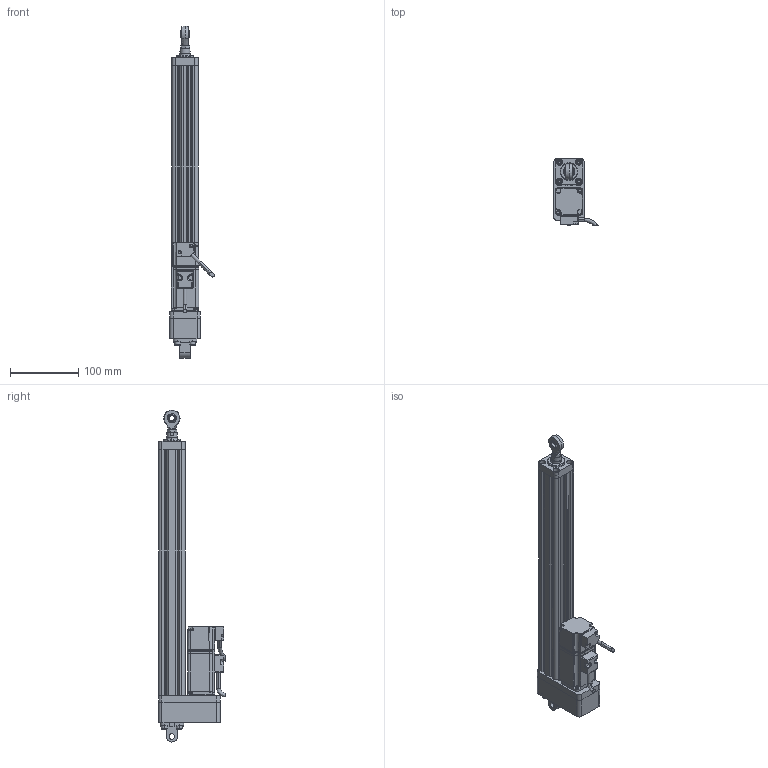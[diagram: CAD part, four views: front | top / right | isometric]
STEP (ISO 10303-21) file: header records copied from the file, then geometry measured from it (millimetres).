
FILE_DESCRIPTION (( 'STEP AP214' ), '1' );
FILE_NAME ('039-S300-D02-B-M5-C4-2.STEP', '2021-03-02T04:58:13', ( '' ), ( '' ), 'SwSTEP 2.0', 'SolidWorks 2018', '' );
FILE_SCHEMA (( 'AUTOMOTIVE_DESIGN' ));
Length unit declared in the file: millimetre
Products named in the file (10): 039-S300-D02-B-M5-C4-2; ECMA-CX0401ES-40框號系列機種-100W低慣量系列; CMC039-DT; CMC039-HXT; GB／T6174-2000六角薄螺母无倒角M8; F-ACE20CA_ACE_; CMC039-GT; CMC039-LJB; CMC039-FL; BNC51-SA8T_K-R
Assembly tree (9 placements, depth 2):
  039-S300-D02-B-M5-C4-2
    CMC039-GT
    CMC039-LJB
    CMC039-FL
    CMC039-DT
    ECMA-CX0401ES-40框號系列機種-100W低慣量系列
    CMC039-HXT
    F-ACE20CA_ACE_
    GB／T6174-2000六角薄螺母无倒角M8
    BNC51-SA8T_K-R
Bounding box: 65.34 x 97.89 x 486 mm (x, y, z)
Volume: 590476.2 mm3; surface area: 201191.7 mm2
Topology: 10 solids, 18 shells, 807 faces, 2112 edges, 1324 vertices
Faces by surface type: cylinder 327, plane 315, bspline 102, cone 63
Entity records: 32316 total; most frequent: CARTESIAN_POINT 12833, ORIENTED_EDGE 4138, DIRECTION 3501, EDGE_CURVE 2069, VERTEX_POINT 1324, AXIS2_PLACEMENT_3D 1253, LINE 995, VECTOR 995
